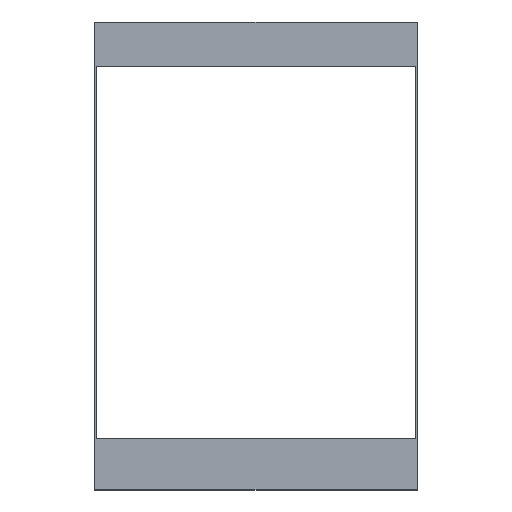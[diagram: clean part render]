
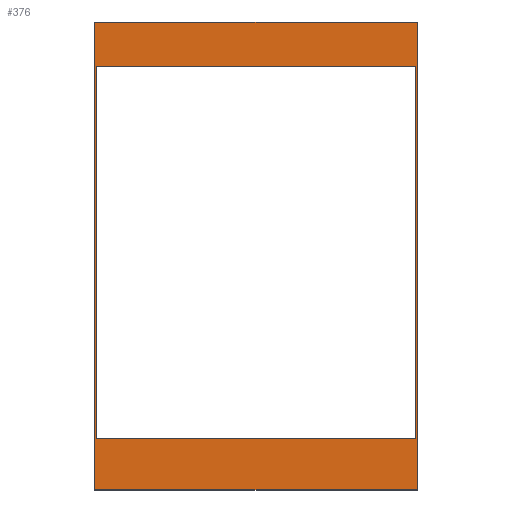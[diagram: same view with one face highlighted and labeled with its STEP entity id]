
A CAD part, top view. The second image highlights one B-rep face of the part: STEP entity #376.
In plain terms, the highlighted planar face has unit normal (0, 0, 1).
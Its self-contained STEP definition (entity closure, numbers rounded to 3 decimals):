
#32 = PLANE('',#33);
#33 = AXIS2_PLACEMENT_3D('',#34,#35,#36);
#34 = CARTESIAN_POINT('',(-12.425,18.05,-1.8));
#35 = DIRECTION('',(0.,1.,0.));
#36 = DIRECTION('',(1.,0.,0.));
#57 = VERTEX_POINT('',#58);
#58 = CARTESIAN_POINT('',(-12.425,18.05,0.));
#72 = PLANE('',#73);
#73 = AXIS2_PLACEMENT_3D('',#74,#75,#76);
#74 = CARTESIAN_POINT('',(-12.425,-18.05,-1.8));
#75 = DIRECTION('',(-1.,0.,0.));
#76 = DIRECTION('',(0.,1.,0.));
#84 = EDGE_CURVE('',#57,#85,#87,.T.);
#85 = VERTEX_POINT('',#86);
#86 = CARTESIAN_POINT('',(12.425,18.05,0.));
#87 = SURFACE_CURVE('',#88,(#92,#99),.PCURVE_S1.);
#88 = LINE('',#89,#90);
#89 = CARTESIAN_POINT('',(-12.425,18.05,0.));
#90 = VECTOR('',#91,1.);
#91 = DIRECTION('',(1.,0.,0.));
#92 = PCURVE('',#32,#93);
#93 = DEFINITIONAL_REPRESENTATION('',(#94),#98);
#94 = LINE('',#95,#96);
#95 = CARTESIAN_POINT('',(0.,-1.8));
#96 = VECTOR('',#97,1.);
#97 = DIRECTION('',(1.,0.));
#98 = ( GEOMETRIC_REPRESENTATION_CONTEXT(2) 
PARAMETRIC_REPRESENTATION_CONTEXT() REPRESENTATION_CONTEXT('2D SPACE',''
  ) );
#99 = PCURVE('',#100,#105);
#100 = PLANE('',#101);
#101 = AXIS2_PLACEMENT_3D('',#102,#103,#104);
#102 = CARTESIAN_POINT('',(0.,0.,0.));
#103 = DIRECTION('',(-0.,-0.,-1.));
#104 = DIRECTION('',(-1.,0.,0.));
#105 = DEFINITIONAL_REPRESENTATION('',(#106),#110);
#106 = LINE('',#107,#108);
#107 = CARTESIAN_POINT('',(12.425,18.05));
#108 = VECTOR('',#109,1.);
#109 = DIRECTION('',(-1.,0.));
#110 = ( GEOMETRIC_REPRESENTATION_CONTEXT(2) 
PARAMETRIC_REPRESENTATION_CONTEXT() REPRESENTATION_CONTEXT('2D SPACE',''
  ) );
#126 = PLANE('',#127);
#127 = AXIS2_PLACEMENT_3D('',#128,#129,#130);
#128 = CARTESIAN_POINT('',(12.425,18.05,-1.8));
#129 = DIRECTION('',(1.,0.,-0.));
#130 = DIRECTION('',(0.,-1.,0.));
#159 = PLANE('',#160);
#160 = AXIS2_PLACEMENT_3D('',#161,#162,#163);
#161 = CARTESIAN_POINT('',(12.425,-18.05,-1.8));
#162 = DIRECTION('',(0.,-1.,0.));
#163 = DIRECTION('',(-1.,0.,0.));
#234 = PLANE('',#235);
#235 = AXIS2_PLACEMENT_3D('',#236,#237,#238);
#236 = CARTESIAN_POINT('',(-12.325,14.65,-1.));
#237 = DIRECTION('',(0.,1.,0.));
#238 = DIRECTION('',(1.,0.,0.));
#262 = PLANE('',#263);
#263 = AXIS2_PLACEMENT_3D('',#264,#265,#266);
#264 = CARTESIAN_POINT('',(12.325,14.65,-1.));
#265 = DIRECTION('',(1.,0.,-0.));
#266 = DIRECTION('',(0.,-1.,0.));
#290 = PLANE('',#291);
#291 = AXIS2_PLACEMENT_3D('',#292,#293,#294);
#292 = CARTESIAN_POINT('',(12.325,-14.05,-1.));
#293 = DIRECTION('',(0.,-1.,0.));
#294 = DIRECTION('',(-1.,0.,0.));
#316 = PLANE('',#317);
#317 = AXIS2_PLACEMENT_3D('',#318,#319,#320);
#318 = CARTESIAN_POINT('',(-12.325,-14.05,-1.));
#319 = DIRECTION('',(-1.,0.,0.));
#320 = DIRECTION('',(0.,1.,0.));
#333 = EDGE_CURVE('',#85,#334,#336,.T.);
#334 = VERTEX_POINT('',#335);
#335 = CARTESIAN_POINT('',(12.425,-18.05,0.));
#336 = SURFACE_CURVE('',#337,(#341,#348),.PCURVE_S1.);
#337 = LINE('',#338,#339);
#338 = CARTESIAN_POINT('',(12.425,18.05,0.));
#339 = VECTOR('',#340,1.);
#340 = DIRECTION('',(0.,-1.,0.));
#341 = PCURVE('',#126,#342);
#342 = DEFINITIONAL_REPRESENTATION('',(#343),#347);
#343 = LINE('',#344,#345);
#344 = CARTESIAN_POINT('',(0.,-1.8));
#345 = VECTOR('',#346,1.);
#346 = DIRECTION('',(1.,0.));
#347 = ( GEOMETRIC_REPRESENTATION_CONTEXT(2) 
PARAMETRIC_REPRESENTATION_CONTEXT() REPRESENTATION_CONTEXT('2D SPACE',''
  ) );
#348 = PCURVE('',#100,#349);
#349 = DEFINITIONAL_REPRESENTATION('',(#350),#354);
#350 = LINE('',#351,#352);
#351 = CARTESIAN_POINT('',(-12.425,18.05));
#352 = VECTOR('',#353,1.);
#353 = DIRECTION('',(0.,-1.));
#354 = ( GEOMETRIC_REPRESENTATION_CONTEXT(2) 
PARAMETRIC_REPRESENTATION_CONTEXT() REPRESENTATION_CONTEXT('2D SPACE',''
  ) );
#376 = ADVANCED_FACE('',(#377,#425),#100,.F.);
#377 = FACE_BOUND('',#378,.F.);
#378 = EDGE_LOOP('',(#379,#380,#381,#404));
#379 = ORIENTED_EDGE('',*,*,#84,.T.);
#380 = ORIENTED_EDGE('',*,*,#333,.T.);
#381 = ORIENTED_EDGE('',*,*,#382,.T.);
#382 = EDGE_CURVE('',#334,#383,#385,.T.);
#383 = VERTEX_POINT('',#384);
#384 = CARTESIAN_POINT('',(-12.425,-18.05,0.));
#385 = SURFACE_CURVE('',#386,(#390,#397),.PCURVE_S1.);
#386 = LINE('',#387,#388);
#387 = CARTESIAN_POINT('',(12.425,-18.05,0.));
#388 = VECTOR('',#389,1.);
#389 = DIRECTION('',(-1.,0.,0.));
#390 = PCURVE('',#100,#391);
#391 = DEFINITIONAL_REPRESENTATION('',(#392),#396);
#392 = LINE('',#393,#394);
#393 = CARTESIAN_POINT('',(-12.425,-18.05));
#394 = VECTOR('',#395,1.);
#395 = DIRECTION('',(1.,0.));
#396 = ( GEOMETRIC_REPRESENTATION_CONTEXT(2) 
PARAMETRIC_REPRESENTATION_CONTEXT() REPRESENTATION_CONTEXT('2D SPACE',''
  ) );
#397 = PCURVE('',#159,#398);
#398 = DEFINITIONAL_REPRESENTATION('',(#399),#403);
#399 = LINE('',#400,#401);
#400 = CARTESIAN_POINT('',(0.,-1.8));
#401 = VECTOR('',#402,1.);
#402 = DIRECTION('',(1.,0.));
#403 = ( GEOMETRIC_REPRESENTATION_CONTEXT(2) 
PARAMETRIC_REPRESENTATION_CONTEXT() REPRESENTATION_CONTEXT('2D SPACE',''
  ) );
#404 = ORIENTED_EDGE('',*,*,#405,.T.);
#405 = EDGE_CURVE('',#383,#57,#406,.T.);
#406 = SURFACE_CURVE('',#407,(#411,#418),.PCURVE_S1.);
#407 = LINE('',#408,#409);
#408 = CARTESIAN_POINT('',(-12.425,-18.05,0.));
#409 = VECTOR('',#410,1.);
#410 = DIRECTION('',(0.,1.,0.));
#411 = PCURVE('',#100,#412);
#412 = DEFINITIONAL_REPRESENTATION('',(#413),#417);
#413 = LINE('',#414,#415);
#414 = CARTESIAN_POINT('',(12.425,-18.05));
#415 = VECTOR('',#416,1.);
#416 = DIRECTION('',(0.,1.));
#417 = ( GEOMETRIC_REPRESENTATION_CONTEXT(2) 
PARAMETRIC_REPRESENTATION_CONTEXT() REPRESENTATION_CONTEXT('2D SPACE',''
  ) );
#418 = PCURVE('',#72,#419);
#419 = DEFINITIONAL_REPRESENTATION('',(#420),#424);
#420 = LINE('',#421,#422);
#421 = CARTESIAN_POINT('',(0.,-1.8));
#422 = VECTOR('',#423,1.);
#423 = DIRECTION('',(1.,0.));
#424 = ( GEOMETRIC_REPRESENTATION_CONTEXT(2) 
PARAMETRIC_REPRESENTATION_CONTEXT() REPRESENTATION_CONTEXT('2D SPACE',''
  ) );
#425 = FACE_BOUND('',#426,.F.);
#426 = EDGE_LOOP('',(#427,#452,#475,#498));
#427 = ORIENTED_EDGE('',*,*,#428,.F.);
#428 = EDGE_CURVE('',#429,#431,#433,.T.);
#429 = VERTEX_POINT('',#430);
#430 = CARTESIAN_POINT('',(-12.325,14.65,0.));
#431 = VERTEX_POINT('',#432);
#432 = CARTESIAN_POINT('',(12.325,14.65,0.));
#433 = SURFACE_CURVE('',#434,(#438,#445),.PCURVE_S1.);
#434 = LINE('',#435,#436);
#435 = CARTESIAN_POINT('',(-12.325,14.65,0.));
#436 = VECTOR('',#437,1.);
#437 = DIRECTION('',(1.,0.,0.));
#438 = PCURVE('',#100,#439);
#439 = DEFINITIONAL_REPRESENTATION('',(#440),#444);
#440 = LINE('',#441,#442);
#441 = CARTESIAN_POINT('',(12.325,14.65));
#442 = VECTOR('',#443,1.);
#443 = DIRECTION('',(-1.,0.));
#444 = ( GEOMETRIC_REPRESENTATION_CONTEXT(2) 
PARAMETRIC_REPRESENTATION_CONTEXT() REPRESENTATION_CONTEXT('2D SPACE',''
  ) );
#445 = PCURVE('',#234,#446);
#446 = DEFINITIONAL_REPRESENTATION('',(#447),#451);
#447 = LINE('',#448,#449);
#448 = CARTESIAN_POINT('',(0.,-1.));
#449 = VECTOR('',#450,1.);
#450 = DIRECTION('',(1.,0.));
#451 = ( GEOMETRIC_REPRESENTATION_CONTEXT(2) 
PARAMETRIC_REPRESENTATION_CONTEXT() REPRESENTATION_CONTEXT('2D SPACE',''
  ) );
#452 = ORIENTED_EDGE('',*,*,#453,.F.);
#453 = EDGE_CURVE('',#454,#429,#456,.T.);
#454 = VERTEX_POINT('',#455);
#455 = CARTESIAN_POINT('',(-12.325,-14.05,0.));
#456 = SURFACE_CURVE('',#457,(#461,#468),.PCURVE_S1.);
#457 = LINE('',#458,#459);
#458 = CARTESIAN_POINT('',(-12.325,-14.05,0.));
#459 = VECTOR('',#460,1.);
#460 = DIRECTION('',(0.,1.,0.));
#461 = PCURVE('',#100,#462);
#462 = DEFINITIONAL_REPRESENTATION('',(#463),#467);
#463 = LINE('',#464,#465);
#464 = CARTESIAN_POINT('',(12.325,-14.05));
#465 = VECTOR('',#466,1.);
#466 = DIRECTION('',(0.,1.));
#467 = ( GEOMETRIC_REPRESENTATION_CONTEXT(2) 
PARAMETRIC_REPRESENTATION_CONTEXT() REPRESENTATION_CONTEXT('2D SPACE',''
  ) );
#468 = PCURVE('',#316,#469);
#469 = DEFINITIONAL_REPRESENTATION('',(#470),#474);
#470 = LINE('',#471,#472);
#471 = CARTESIAN_POINT('',(0.,-1.));
#472 = VECTOR('',#473,1.);
#473 = DIRECTION('',(1.,0.));
#474 = ( GEOMETRIC_REPRESENTATION_CONTEXT(2) 
PARAMETRIC_REPRESENTATION_CONTEXT() REPRESENTATION_CONTEXT('2D SPACE',''
  ) );
#475 = ORIENTED_EDGE('',*,*,#476,.F.);
#476 = EDGE_CURVE('',#477,#454,#479,.T.);
#477 = VERTEX_POINT('',#478);
#478 = CARTESIAN_POINT('',(12.325,-14.05,0.));
#479 = SURFACE_CURVE('',#480,(#484,#491),.PCURVE_S1.);
#480 = LINE('',#481,#482);
#481 = CARTESIAN_POINT('',(12.325,-14.05,0.));
#482 = VECTOR('',#483,1.);
#483 = DIRECTION('',(-1.,0.,0.));
#484 = PCURVE('',#100,#485);
#485 = DEFINITIONAL_REPRESENTATION('',(#486),#490);
#486 = LINE('',#487,#488);
#487 = CARTESIAN_POINT('',(-12.325,-14.05));
#488 = VECTOR('',#489,1.);
#489 = DIRECTION('',(1.,0.));
#490 = ( GEOMETRIC_REPRESENTATION_CONTEXT(2) 
PARAMETRIC_REPRESENTATION_CONTEXT() REPRESENTATION_CONTEXT('2D SPACE',''
  ) );
#491 = PCURVE('',#290,#492);
#492 = DEFINITIONAL_REPRESENTATION('',(#493),#497);
#493 = LINE('',#494,#495);
#494 = CARTESIAN_POINT('',(0.,-1.));
#495 = VECTOR('',#496,1.);
#496 = DIRECTION('',(1.,0.));
#497 = ( GEOMETRIC_REPRESENTATION_CONTEXT(2) 
PARAMETRIC_REPRESENTATION_CONTEXT() REPRESENTATION_CONTEXT('2D SPACE',''
  ) );
#498 = ORIENTED_EDGE('',*,*,#499,.F.);
#499 = EDGE_CURVE('',#431,#477,#500,.T.);
#500 = SURFACE_CURVE('',#501,(#505,#512),.PCURVE_S1.);
#501 = LINE('',#502,#503);
#502 = CARTESIAN_POINT('',(12.325,14.65,0.));
#503 = VECTOR('',#504,1.);
#504 = DIRECTION('',(0.,-1.,0.));
#505 = PCURVE('',#100,#506);
#506 = DEFINITIONAL_REPRESENTATION('',(#507),#511);
#507 = LINE('',#508,#509);
#508 = CARTESIAN_POINT('',(-12.325,14.65));
#509 = VECTOR('',#510,1.);
#510 = DIRECTION('',(0.,-1.));
#511 = ( GEOMETRIC_REPRESENTATION_CONTEXT(2) 
PARAMETRIC_REPRESENTATION_CONTEXT() REPRESENTATION_CONTEXT('2D SPACE',''
  ) );
#512 = PCURVE('',#262,#513);
#513 = DEFINITIONAL_REPRESENTATION('',(#514),#518);
#514 = LINE('',#515,#516);
#515 = CARTESIAN_POINT('',(0.,-1.));
#516 = VECTOR('',#517,1.);
#517 = DIRECTION('',(1.,0.));
#518 = ( GEOMETRIC_REPRESENTATION_CONTEXT(2) 
PARAMETRIC_REPRESENTATION_CONTEXT() REPRESENTATION_CONTEXT('2D SPACE',''
  ) );
